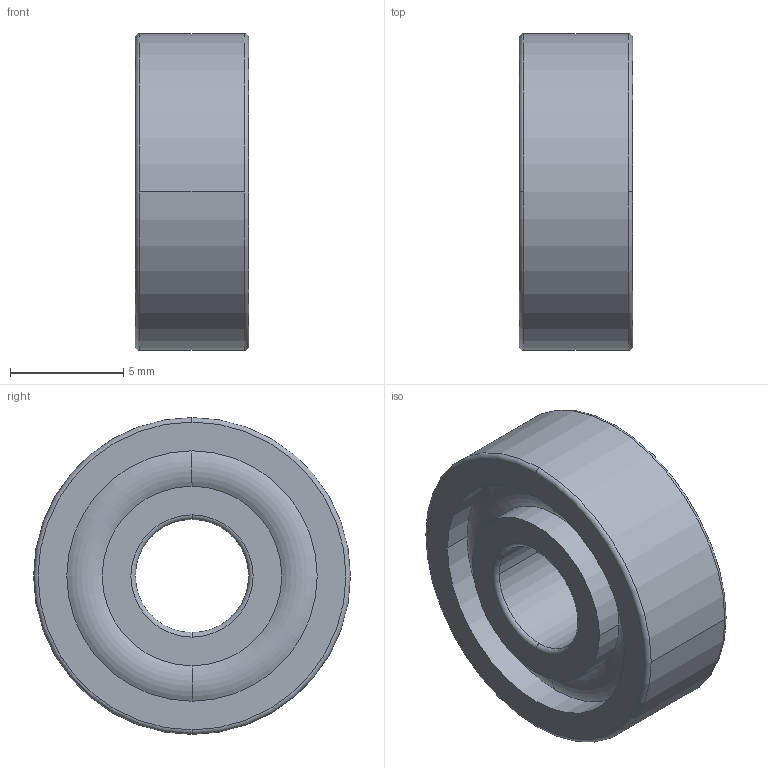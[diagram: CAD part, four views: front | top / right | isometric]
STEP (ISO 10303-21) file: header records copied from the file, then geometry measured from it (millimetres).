
FILE_DESCRIPTION((''),'2;1');
FILE_NAME('W:\214-212.stp','2004-01-23T15:30:04',('KAA'),(''),'Autodesk Inventor (R) 6.0','Autodesk Inventor (R) 6.0','');
FILE_SCHEMA(('CONFIG_CONTROL_DESIGN'));
Length unit declared in the file: millimetre
Products named in the file (1): 214-212
Bounding box: 5 x 14 x 14 mm (x, y, z)
Volume: 393.1 mm3; surface area: 965.2 mm2
Topology: 1 solids, 2 shells, 32 faces, 84 edges, 56 vertices
Faces by surface type: torus 16, cylinder 12, plane 4
Entity records: 1141 total; most frequent: DIRECTION 222, CARTESIAN_POINT 173, ORIENTED_EDGE 168, AXIS2_PLACEMENT_3D 105, EDGE_CURVE 84, CIRCLE 72, VERTEX_POINT 56, EDGE_LOOP 36
